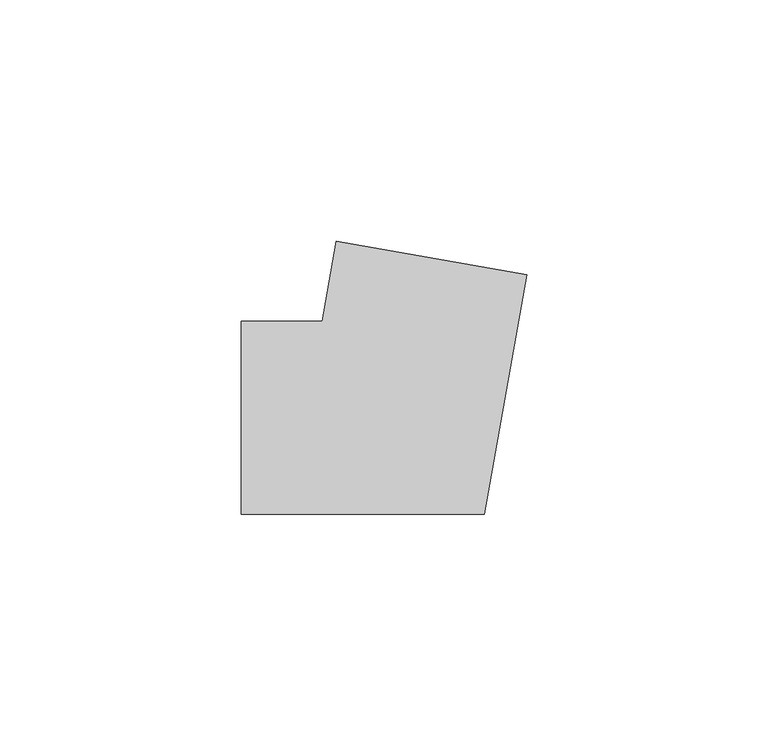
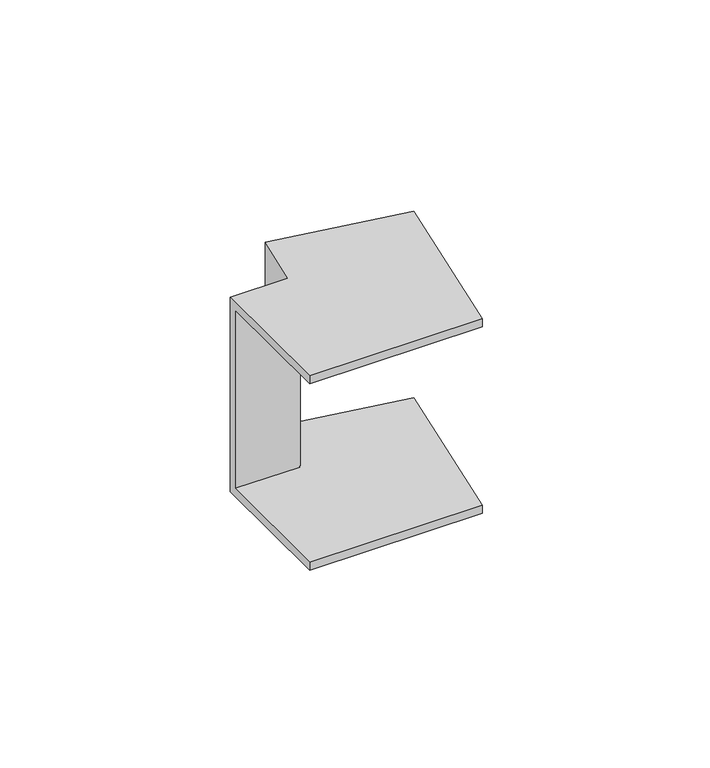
"""IFC4 building model written with IfcOpenShell, lengths in millimetres: cable carrier fitting geometry, КНС_УголВнешний_ILC_DKC : Угол внешний_DKC."""

import ifcopenshell
import ifcopenshell.guid

model = None  # the IFC model being written
_history = None  # IfcOwnerHistory: only IFC2X3 demands one
_inside = {}  # id of a spatial element -> (the spatial element, [elements in it])
_under = {}  # id of a project, library or spatial element -> (it, [spatial elements below it])
_declared = {}  # id of a project -> (the project, [libraries it declares])
_typed = {}  # id of a type object -> (the type object, [elements of that type])
_made_of = {}  # id of a material, layer set ... -> (it, [elements and type objects made of it])


def new_model(schema):
    """Start an empty IFC model of exactly this schema.

    Asked for "IFC4X3", IfcOpenShell would pick the latest addendum, in which some entities
    have other attributes; the version numbers below select the first issue.
    IFC2X3 requires an IfcOwnerHistory on every rooted entity: one is made here for all.
    """
    global model, _history
    if schema == "IFC4X3":
        model = ifcopenshell.file(schema_version=(4, 3, 0, 0))
    else:
        model = ifcopenshell.file(schema=schema)
    _inside.clear()
    _under.clear()
    _declared.clear()
    _typed.clear()
    _made_of.clear()
    _history = None
    if model.schema == "IFC2X3":
        org = make("IfcOrganization", Name="unknown")
        user = make(
            "IfcPersonAndOrganization",
            ThePerson=make("IfcPerson", FamilyName="unknown"),
            TheOrganization=org,
        )
        app = make(
            "IfcApplication",
            ApplicationDeveloper=org,
            Version="unknown",
            ApplicationFullName="unknown",
            ApplicationIdentifier="unknown",
        )
        _history = make(
            "IfcOwnerHistory",
            OwningUser=user,
            OwningApplication=app,
            ChangeAction="ADDED",
            CreationDate=0,
        )
    return model


def make(cls, **values):
    """One entity of the class cls with the attributes given. An attribute that is None is left unset."""
    return model.create_entity(
        cls, **{name: value for name, value in values.items() if value is not None}
    )


def rooted(cls, **values):
    """An entity with a GlobalId (a new one), such as an element, a storey or a relation."""
    return make(cls, GlobalId=ifcopenshell.guid.new(), OwnerHistory=_history, **values)


def si_unit(unit_type, name, prefix=None):
    """IfcSIUnit, for example si_unit("LENGTHUNIT", "METRE", prefix="MILLI")."""
    return make("IfcSIUnit", UnitType=unit_type, Prefix=prefix, Name=name)


def assignment(units):
    """IfcUnitAssignment: the units of a project."""
    return None if units is None else make("IfcUnitAssignment", Units=units)


def point(xyz):
    """IfcCartesianPoint."""
    return None if xyz is None else make("IfcCartesianPoint", Coordinates=xyz)


def direction(xyz):
    """IfcDirection."""
    return None if xyz is None else make("IfcDirection", DirectionRatios=xyz)


def frame(location, z_axis=None, x_axis=None):
    """IfcAxis2Placement3D, a coordinate frame: its origin and axes. An axis left out is left unset."""
    return make(
        "IfcAxis2Placement3D",
        Location=point(location),
        Axis=direction(z_axis),
        RefDirection=direction(x_axis),
    )


def origin():
    """The frame at (0, 0, 0) with its axes left unset."""
    return frame((0.0, 0.0, 0.0))


def place(relative_to, where):
    """IfcLocalPlacement: puts the frame where relative to a parent placement (None: the world)."""
    return make(
        "IfcLocalPlacement", PlacementRelTo=relative_to, RelativePlacement=where
    )


def context(
    kind, dimensions, precision=None, world=None, true_north=None, identifier=None
):
    """IfcGeometricRepresentationContext, for example the 3D "Model" context."""
    return make(
        "IfcGeometricRepresentationContext",
        ContextIdentifier=identifier,
        ContextType=kind,
        CoordinateSpaceDimension=dimensions,
        Precision=precision,
        WorldCoordinateSystem=world,
        TrueNorth=true_north,
    )


def project(units=None, contexts=None):
    """IfcProject with its units and contexts."""
    return rooted(
        "IfcProject",
        Name="project",
        RepresentationContexts=contexts,
        UnitsInContext=assignment(units),
    )


def spatial(cls, under=None, at=None, **own):
    """A site, building, storey or space (cls), placed at a placement, below another one or the project."""
    s = rooted(cls, ObjectPlacement=at, **own)
    if under is not None:
        _under.setdefault(under.id(), (under, []))[1].append(s)
    return s


def faces_of(points, faces, orient=None, outer=None):
    """IfcFace entities. A face is a list of loops; a loop is a list of indices into points, from 0.

    orient and outer hold one flag for each loop. By default every Orientation is true, the
    first loop of a face is its IfcFaceOuterBound and the others are IfcFaceBound.
    """
    made = []
    for i, loops in enumerate(faces):
        bounds = []
        for j, loop in enumerate(loops):
            is_outer = j == 0 if outer is None else outer[i][j]
            bounds.append(
                make(
                    "IfcFaceOuterBound" if is_outer else "IfcFaceBound",
                    Bound=make("IfcPolyLoop", Polygon=[points[k] for k in loop]),
                    Orientation=True if orient is None else orient[i][j],
                )
            )
        made.append(make("IfcFace", Bounds=bounds))
    return made


def faceted_brep(points, faces, orient=None, outer=None, voids=None):
    """IfcFacetedBrep: a solid bounded by flat faces; with voids (closed shells), ...WithVoids."""
    shared = [point(p) for p in points]
    hull = make("IfcClosedShell", CfsFaces=faces_of(shared, faces, orient, outer))
    if voids is None:
        return make("IfcFacetedBrep", Outer=hull)
    return make(
        "IfcFacetedBrepWithVoids",
        Outer=hull,
        Voids=[
            make(cls, CfsFaces=faces_of(shared, fs, o, b)) for cls, fs, o, b in voids
        ],
    )


def shape(context_of_items, identifier, shape_type, items):
    """IfcShapeRepresentation: the items that make up one representation, for example the "Body"."""
    return make(
        "IfcShapeRepresentation",
        ContextOfItems=context_of_items,
        RepresentationIdentifier=identifier,
        RepresentationType=shape_type,
        Items=items,
    )


def source(mapping_origin, context_of_items, identifier, shape_type, items):
    """IfcRepresentationMap: a shape defined once, which mapped items show again and again."""
    return make(
        "IfcRepresentationMap",
        MappingOrigin=mapping_origin,
        MappedRepresentation=shape(context_of_items, identifier, shape_type, items),
    )


def transform(
    local_origin,
    x_axis=None,
    y_axis=None,
    z_axis=None,
    scale=None,
    scale2=None,
    scale3=None,
    uniform=True,
):
    """IfcCartesianTransformationOperator3D, or its non-uniform kind. x_axis, y_axis, z_axis: its Axis1, 2, 3."""
    if uniform:
        return make(
            "IfcCartesianTransformationOperator3D",
            Axis1=direction(x_axis),
            Axis2=direction(y_axis),
            LocalOrigin=point(local_origin),
            Scale=scale,
            Axis3=direction(z_axis),
        )
    return make(
        "IfcCartesianTransformationOperator3DnonUniform",
        Axis1=direction(x_axis),
        Axis2=direction(y_axis),
        LocalOrigin=point(local_origin),
        Scale=scale,
        Axis3=direction(z_axis),
        Scale2=scale2,
        Scale3=scale3,
    )


def mapped(mapping_source, mapping_target):
    """IfcMappedItem: shows the shape of a source again, moved by a transform."""
    return make(
        "IfcMappedItem", MappingSource=mapping_source, MappingTarget=mapping_target
    )


def made_of(thing, what):
    """Note that an element or type object is made of a material, layer set ...; save() writes the relation."""
    if what is not None:
        _made_of.setdefault(what.id(), (what, []))[1].append(thing)
    return thing


def element(
    cls,
    number,
    at=None,
    inside=None,
    cuts=None,
    type_object=None,
    material=None,
    context=None,
    identifier="Body",
    shape_type=None,
    held_by="IfcProductDefinitionShape",
    body=None,
    shapes=None,
    **own,
):
    """One element of the class cls, such as IfcWall. Its Tag is "e" and its number.

    at: its placement. inside: the storey or other place that contains it. cuts: it is an
    opening in that element (IfcRelVoidsElement). A single representation is given by context,
    identifier, shape_type and body (its items); several are given by shapes. held_by: the class
    of the entity that holds the representations. save() writes the other relations.
    """
    e = rooted(cls, Tag="e%d" % number, ObjectPlacement=at, **own)
    if body is not None:
        shapes = [shape(context, identifier, shape_type, body)]
    if shapes is not None:
        e.Representation = make(held_by, Representations=shapes)
    if inside is not None:
        _inside.setdefault(inside.id(), (inside, []))[1].append(e)
    if cuts is not None:
        rooted(
            "IfcRelVoidsElement", RelatingBuildingElement=cuts, RelatedOpeningElement=e
        )
    if type_object is not None:
        _typed.setdefault(type_object.id(), (type_object, []))[1].append(e)
    return made_of(e, material)


def aggregate(whole, parts):
    """IfcRelAggregates: a whole, such as a stair, and the parts it consists of."""
    return rooted("IfcRelAggregates", RelatingObject=whole, RelatedObjects=parts)


def save(model, path):
    """Write the relations noted so far, then the file.

    IfcRelAggregates (storeys below a building ...), IfcRelContainedInSpatialStructure (elements
    in a storey), IfcRelDefinesByType, IfcRelAssociatesMaterial and IfcRelDeclares: one each for
    every whole, place, type object, material and project.
    """
    for whole, parts in _under.values():
        aggregate(whole, parts)
    for where, things in _inside.values():
        rooted(
            "IfcRelContainedInSpatialStructure",
            RelatedElements=things,
            RelatingStructure=where,
        )
    for kind, things in _typed.values():
        rooted("IfcRelDefinesByType", RelatedObjects=things, RelatingType=kind)
    for what, things in _made_of.values():
        rooted("IfcRelAssociatesMaterial", RelatedObjects=things, RelatingMaterial=what)
    for by, libraries in _declared.values():
        rooted("IfcRelDeclares", RelatingContext=by, RelatedDefinitions=libraries)
    model.write(path)


def cable_carrier_fitting_934f8354(model_context):
    return source(origin(), model_context, "Body", "Brep", [
        faceted_brep([(-33.5639852, 20.0, 30.0), (-33.5639852, 20.0, -30.0), (-33.5639852, -20.0, -30.0), (-33.5639852, -20.0, -27.5), (-33.5639852, 17.5, -27.5), (-33.5639852, 17.5, 27.5), (-33.5639852, -20.0, 27.5), (-33.5639852, -20.0, 30.0), (-13.8678302, 36.5270364, 30.0), (25.5244799, 29.5811093, 30.0), (25.5244799, 29.5811093, 27.5), (-11.4058108, 36.092916, 27.5), (-11.4058108, 36.092916, -27.5), (25.5244799, 29.5811093, -27.5), (25.5244799, 29.5811093, -30.0), (-13.8678302, 36.5270364, -30.0), (-16.7819926, 20.0, 30.0), (-16.7819926, 20.0, -30.0), (16.7819926, -20.0, -30.0), (16.7819926, -20.0, -27.5), (-14.6842435, 17.5, -27.5), (-14.6842435, 17.5, 27.5), (16.7819926, -20.0, 27.5), (16.7819926, -20.0, 30.0)], [[[0, 1, 2, 3, 4, 5, 6, 7]], [[8, 9, 10, 11, 12, 13, 14, 15]], [[1, 0, 16, 17]], [[2, 1, 17, 15, 14, 18]], [[3, 2, 18, 19]], [[4, 3, 19, 13, 12, 20]], [[5, 4, 20, 21]], [[6, 5, 21, 11, 10, 22]], [[7, 6, 22, 23]], [[0, 7, 23, 9, 8, 16]], [[17, 16, 8, 15]], [[19, 18, 14, 13]], [[21, 20, 12, 11]], [[23, 22, 10, 9]]]),
    ])


if __name__ == "__main__":
    model = new_model("IFC4")
    model_context = context("Model", 3, world=origin())
    ifc_project = project(units=[si_unit("LENGTHUNIT", "METRE", prefix="MILLI")], contexts=[model_context])
    site = spatial("IfcSite", under=ifc_project)
    building = spatial("IfcBuilding", under=site)
    placement = place(None, origin())
    cable_carrier_fitting_shape = cable_carrier_fitting_934f8354(model_context)
    element("IfcCableCarrierFitting", 1, ObjectType="КНС_УголВнешний_ILC_DKC : Угол внешний_DKC", at=placement, inside=building, context=model_context, shape_type="MappedRepresentation", body=[
        mapped(cable_carrier_fitting_shape, transform((0.0, 0.0, 0.0), x_axis=(1.0, 0.0, 0.0), y_axis=(0.0, 1.0, 0.0), z_axis=(0.0, 0.0, 1.0))),
    ])
    save(model, "model.ifc")
